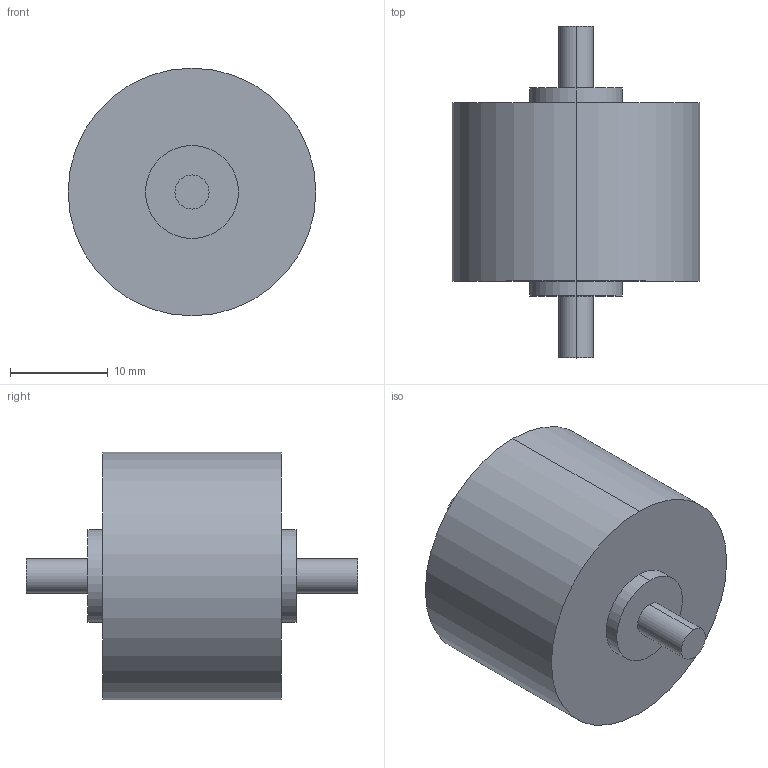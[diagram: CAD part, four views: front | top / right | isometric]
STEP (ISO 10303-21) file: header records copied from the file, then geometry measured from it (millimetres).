
FILE_DESCRIPTION (( 'STEP AP214' ), '1' );
FILE_NAME ('SS1432-5KG-M-M.STEP', '2024-09-04T13:34:43', ( '' ), ( '' ), 'SwSTEP 2.0', 'SolidWorks 2008', '' );
FILE_SCHEMA (( 'AUTOMOTIVE_DESIGN' ));
Length unit declared in the file: inch
Products named in the file (1): SS1432-5KG-M-M
Bounding box: 25.4 x 34.04 x 25.4 mm (x, y, z)
Volume: 9606.4 mm3; surface area: 2703.8 mm2
Topology: 1 solids, 1 shells, 16 faces, 30 edges, 20 vertices
Faces by surface type: cylinder 10, plane 6
Entity records: 441 total; most frequent: DIRECTION 84, CARTESIAN_POINT 67, ORIENTED_EDGE 60, AXIS2_PLACEMENT_3D 37, EDGE_CURVE 30, EDGE_LOOP 20, CIRCLE 20, VERTEX_POINT 20
